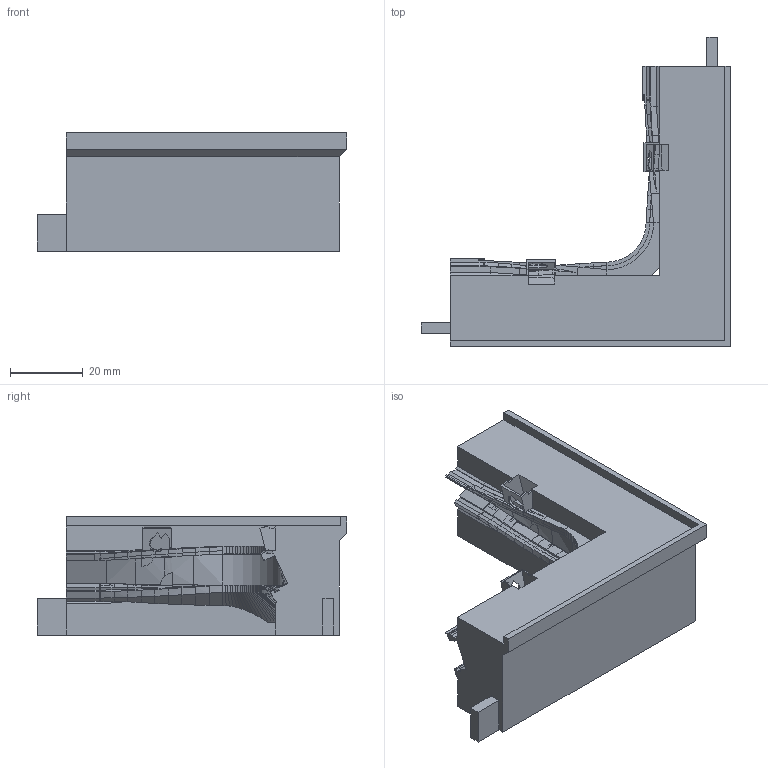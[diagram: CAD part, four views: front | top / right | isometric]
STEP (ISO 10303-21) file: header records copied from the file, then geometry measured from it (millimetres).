
FILE_DESCRIPTION(('Open CASCADE Model'),'2;1');
FILE_NAME('SOLID','2026-10-21T18:37:57',('Author'),('Open CASCADE'), 'Open CASCADE STEP processor 8.0','build123d','Unknown');
FILE_SCHEMA(('AUTOMOTIVE_DESIGN { 1 0 10303 214 1 1 1 1 }'));
Products named in the file (1): SOLID
Bounding box: 85.1 x 85.1 x 32.5 mm (x, y, z)
Volume: 71694.2 mm3; surface area: 17506.1 mm2
Topology: 1 solids, 1 shells, 696 faces, 1862 edges, 1160 vertices
Faces by surface type: bspline 355, plane 334, cylinder 7
Entity records: 47201 total; most frequent: CARTESIAN_POINT 15203, DIRECTION 3961, ORIENTED_EDGE 3724, PCURVE 3724, DEFINITIONAL_REPRESENTATION 3724, LINE 3223, VECTOR 3223, B_SPLINE_CURVE_WITH_KNOTS 2323
